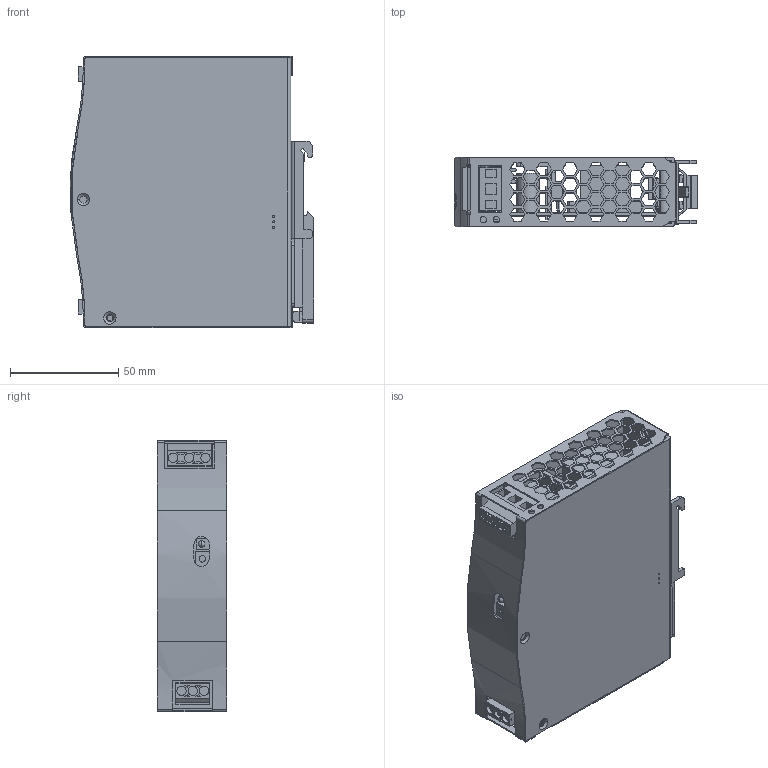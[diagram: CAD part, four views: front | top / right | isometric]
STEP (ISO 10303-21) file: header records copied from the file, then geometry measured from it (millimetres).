
FILE_DESCRIPTION(('Creo Elements/Direct Modeling STEP Export'),'2;1');
FILE_NAME('DDR-120.stp','2018-12-12T11:34:34',(''),(''),'PTC Creo Elements/Direct Modeling STEP processor for AP214 (Solid Model)','PTC Creo Elements/Direct Modeling 19.0A 04-Oct-2014 (C) Parametric Technology GmbH','');
FILE_SCHEMA(('AUTOMOTIVE_DESIGN { 1 0 10303 214 1 1 1 1 }'));
Length unit declared in the file: millimetre
Products named in the file (30): ˋ°Ûy; p3.1.1; p3.2.1; ÝƒÛy; ÊW£\; a2; p1; p2.1; MOSTO3P.1.1; ¤ïÊl.1; ¤ïÊl.1.1; JS100107.1.1.1; a1; uu.1; pin.1.2; hs3; VR; gg.1; HS3; HS2; LED; PCB1; pcb2; MOS15.5x10.1.1.1.1.1.1.2.1.1; MOS15.5x10.1.1.1.1.1.1.2.1.1.1; MOS; PCB; mylar.1; mylar; DDR-120
Assembly tree (30 placements, depth 4):
  DDR-120
    mylar
    mylar.1
    PCB
      MOS
        MOS15.5x10.1.1.1.1.1.1.2.1.1.1
        MOS15.5x10.1.1.1.1.1.1.2.1.1
      pcb2
      PCB1
      LED
      HS2
      HS3
        gg.1
      VR
      hs3
        pin.1.2  x2
        uu.1
      a1
        JS100107.1.1.1
        ¤ïÊl.1.1
        ¤ïÊl.1
        MOSTO3P.1.1
      p2.1
      p1
    a2
      ÊW£\
      ÝƒÛy
        p3.2.1
        p3.1.1
      ˋ°Ûy
Bounding box: 112.18 x 32 x 125.2 mm (x, y, z)
Volume: 125790 mm3; surface area: 181747.5 mm2
Topology: 22 solids, 22 shells, 1555 faces, 4388 edges, 2905 vertices
Faces by surface type: plane 1172, cylinder 315, torus 36, cone 26, bspline 6
Entity records: 48156 total; most frequent: CARTESIAN_POINT 9137, ORIENTED_EDGE 8680, DIRECTION 6863, EDGE_CURVE 4340, VECTOR 3237, LINE 3237, VERTEX_POINT 2873, EDGE_LOOP 1863
